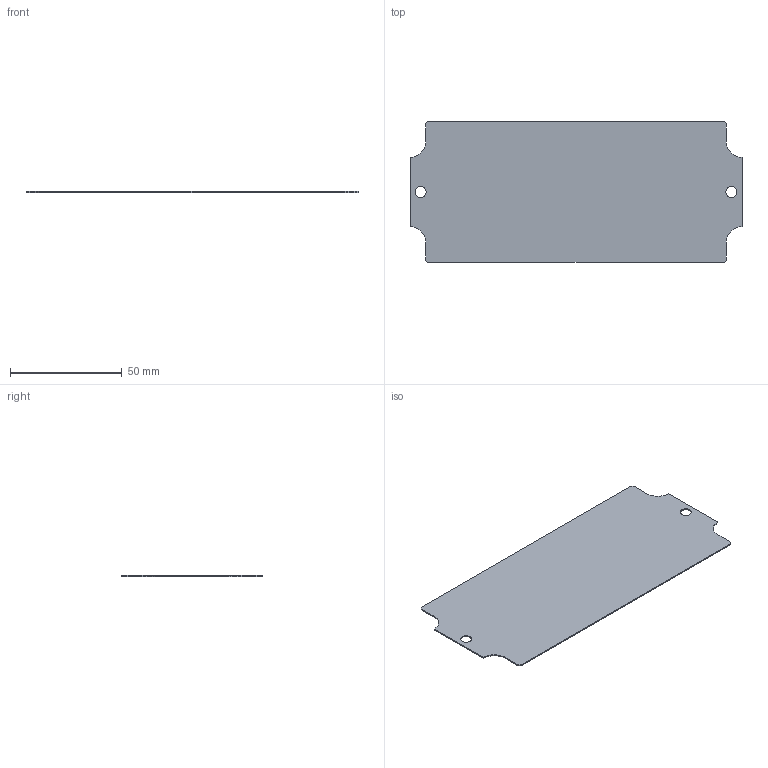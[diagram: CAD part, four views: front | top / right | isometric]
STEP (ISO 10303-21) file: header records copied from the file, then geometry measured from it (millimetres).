
FILE_DESCRIPTION((''),'2;1');
FILE_NAME('c:\temp\083PL.stp','2006-07-18T13:51:02',('kbond'),(''),'Autodesk Inventor 11','Autodesk Inventor 11','');
FILE_SCHEMA(('AUTOMOTIVE_DESIGN { 1 0 10303 214 1 1 1 1 }'));
Length unit declared in the file: millimetre
Products named in the file (1): 083PL
Bounding box: 148.5 x 63 x 0.5 mm (x, y, z)
Volume: 4454.1 mm3; surface area: 18036.6 mm2
Topology: 1 solids, 1 shells, 20 faces, 56 edges, 38 vertices
Faces by surface type: plane 14, cylinder 4, bspline 2
Entity records: 677 total; most frequent: CARTESIAN_POINT 143, ORIENTED_EDGE 104, DIRECTION 102, EDGE_CURVE 52, VECTOR 40, LINE 40, VERTEX_POINT 36, AXIS2_PLACEMENT_3D 31
